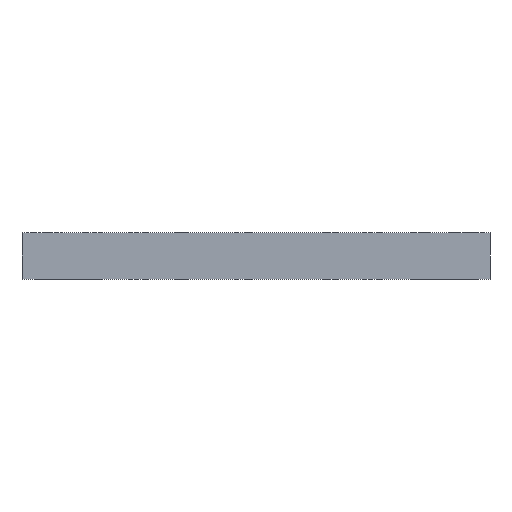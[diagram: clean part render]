
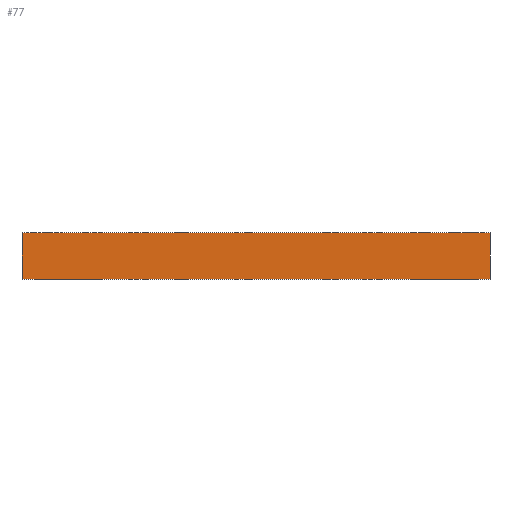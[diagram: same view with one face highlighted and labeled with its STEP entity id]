
A CAD part, front view. The second image highlights one B-rep face of the part: STEP entity #77.
In plain terms, the highlighted planar face has unit normal (0, -1, 0).
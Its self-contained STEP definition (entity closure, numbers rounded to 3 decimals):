
#77=ADVANCED_FACE('',(#162),#161,.T.);
#161=PLANE('',#690);
#162=FACE_OUTER_BOUND('',#691,.T.);
#687=CARTESIAN_POINT('',(-60.,-50.,1.));
#688=DIRECTION('',(0.,-1.,0.));
#689=DIRECTION('',(0.,0.,-1.));
#690=AXIS2_PLACEMENT_3D('',#687,#688,#689);
#691=EDGE_LOOP('',(#987,#988,#989,#990));
#987=ORIENTED_EDGE('',*,*,#1214,.F.);
#988=ORIENTED_EDGE('',*,*,#1250,.F.);
#989=ORIENTED_EDGE('',*,*,#1251,.T.);
#990=ORIENTED_EDGE('',*,*,#1247,.T.);
#1214=EDGE_CURVE('',#1358,#1343,#1365,.T.);
#1247=EDGE_CURVE('',#1595,#1343,#1596,.T.);
#1250=EDGE_CURVE('',#1615,#1358,#1616,.T.);
#1251=EDGE_CURVE('',#1615,#1595,#1622,.T.);
#1343=VERTEX_POINT('',#2223);
#1358=VERTEX_POINT('',#2232);
#1365=LINE('',#2236,#2237);
#1595=VERTEX_POINT('',#2399);
#1596=LINE('',#2400,#2401);
#1615=VERTEX_POINT('',#2410);
#1616=LINE('',#2411,#2412);
#1622=LINE('',#2414,#2415);
#2223=CARTESIAN_POINT('',(50.,-50.,0.));
#2232=CARTESIAN_POINT('',(-50.,-50.,0.));
#2236=CARTESIAN_POINT('',(-50.,-50.,0.));
#2237=VECTOR('',#2238,100.);
#2238=DIRECTION('',(1.,0.,0.));
#2399=CARTESIAN_POINT('',(50.,-50.,-10.));
#2400=CARTESIAN_POINT('',(50.,-50.,-10.));
#2401=VECTOR('',#2402,10.);
#2402=DIRECTION('',(0.,0.,1.));
#2410=CARTESIAN_POINT('',(-50.,-50.,-10.));
#2411=CARTESIAN_POINT('',(-50.,-50.,-10.));
#2412=VECTOR('',#2413,10.);
#2413=DIRECTION('',(0.,0.,1.));
#2414=CARTESIAN_POINT('',(-50.,-50.,-10.));
#2415=VECTOR('',#2416,100.);
#2416=DIRECTION('',(1.,0.,0.));
